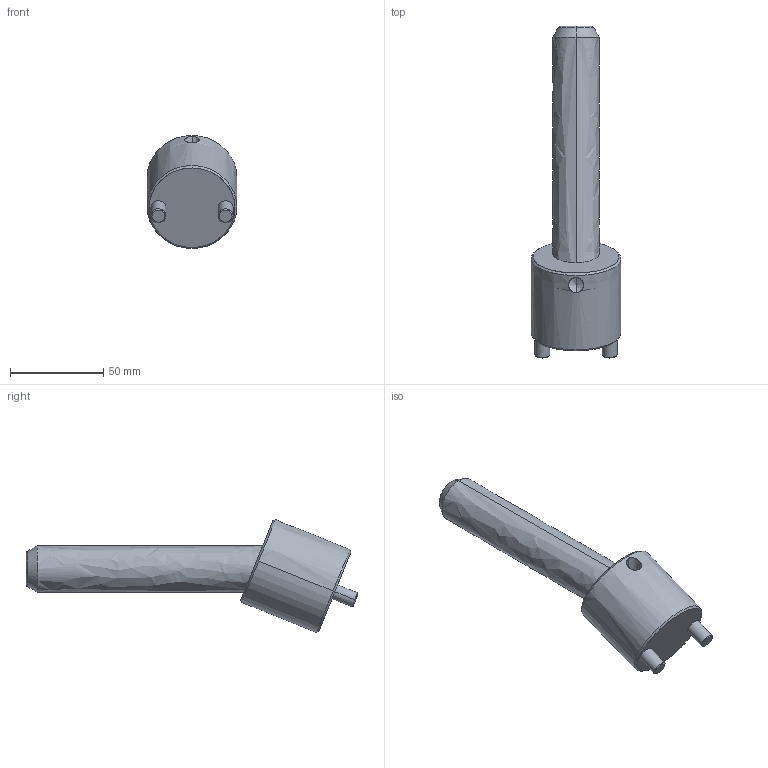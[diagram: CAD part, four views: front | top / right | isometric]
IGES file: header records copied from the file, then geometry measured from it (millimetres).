
Start section: START RECORD GO HERE.
Global section: file name: CI2225125.igs; native system: DASSAULT SYSTEMES CATIA V5 R20 - www.3ds.com; preprocessor: CATIA Version 5 Release 20 ; author: r.borello; organization: CFTORINO; date: 20190624.085138; units: millimetre
Bounding box: 48 x 178.03 x 60.61 mm (x, y, z)
Surface area: 27334.5 mm2 (no closed solid volume)
Topology: 0 solids, 0 shells, 39 faces, 162 edges, 160 vertices
Faces by surface type: revolution 32, plane 7
